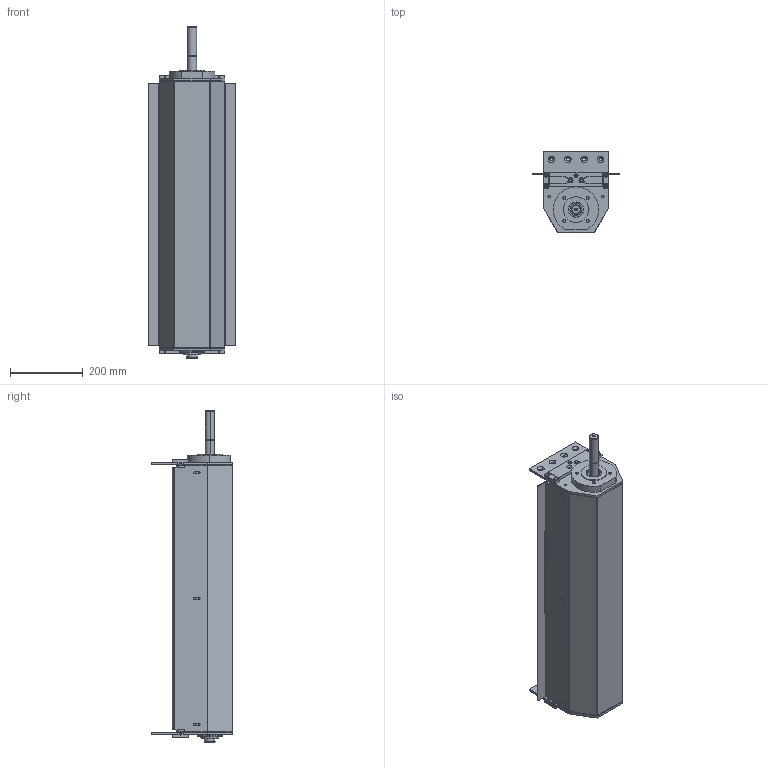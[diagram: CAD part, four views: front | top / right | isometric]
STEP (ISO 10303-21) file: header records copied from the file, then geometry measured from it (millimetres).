
FILE_DESCRIPTION (( 'STEP AP203' ), '1' );
FILE_NAME ('084.095.KCS.49.700.STEP', '2019-07-30T08:21:31', ( '' ), ( '' ), 'SwSTEP 2.0', 'SolidWorks 2018', '' );
FILE_SCHEMA (( 'CONFIG_CONTROL_DESIGN' ));
Length unit declared in the file: millimetre
Products named in the file (19): 084.802.048; 084.810.003; 084.817.081_Default<A macchina>; 084.802.003; 084.802.004-1; Part1^084.095.KCS.49.700_Default<A macchina>; 084.802.012_Solo centrale; 084.802.020; 084.802.047; 084.095.KCS.49.700; 084.812.003; 084.802.011; 084.802.021; 084.817.082; 084.802.046; 084.817.083; 084.814.003-1; CUSCINETTI A SFERE_6004-2RS; 084.817.084
Assembly tree (33 placements, depth 2):
  084.095.KCS.49.700
    084.812.003
    084.814.003-1
    Part1^084.095.KCS.49.700_Default<A macchina>  x2
    084.802.046
    084.802.047
    084.802.048  x4
    084.802.012_Solo centrale  x2
    084.817.081_Default<A macchina>
    084.817.082  x2
    084.817.083  x2
    084.817.084
    084.802.021
    084.810.003  x2
    084.802.004-1  x4
    084.802.011
    084.802.020
    084.802.003  x2
    CUSCINETTI A SFERE_6004-2RS  x4
Bounding box: 240 x 223 x 911 mm (x, y, z)
Volume: 5210653.7 mm3; surface area: 2562106.2 mm2
Topology: 35 solids, 35 shells, 1136 faces, 2847 edges, 1835 vertices
Faces by surface type: plane 519, cylinder 395, cone 144, torus 68, sphere 10
Entity records: 23696 total; most frequent: DIRECTION 3913, CARTESIAN_POINT 3719, ORIENTED_EDGE 3464, EDGE_CURVE 1732, AXIS2_PLACEMENT_3D 1462, VERTEX_POINT 1120, VECTOR 989, LINE 989
